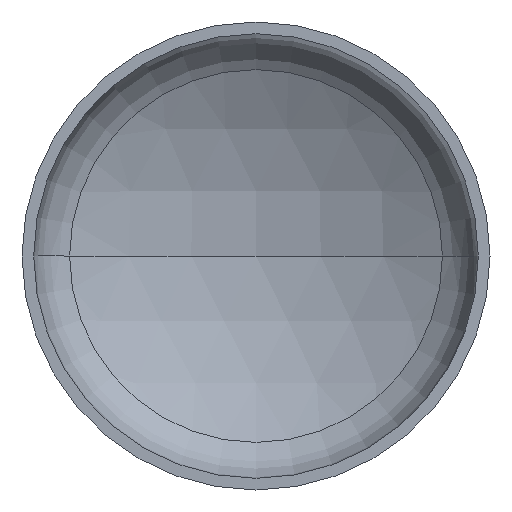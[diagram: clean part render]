
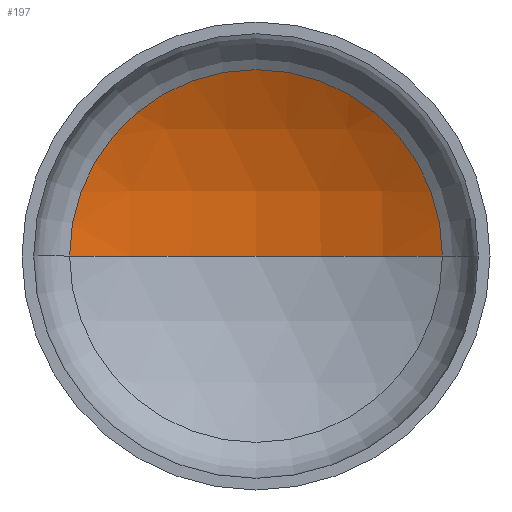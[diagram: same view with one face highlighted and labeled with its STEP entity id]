
A CAD part, front view. The second image highlights one B-rep face of the part: STEP entity #197.
In plain terms, the highlighted spherical face has radius 1440 mm.
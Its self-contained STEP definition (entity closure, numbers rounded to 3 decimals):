
#5 = ORIENTED_EDGE ( 'NONE', *, *, #103, .T. ) ;
#11 = AXIS2_PLACEMENT_3D ( 'NONE', #203, #299, #130 ) ;
#18 = ORIENTED_EDGE ( 'NONE', *, *, #105, .T. ) ;
#27 = AXIS2_PLACEMENT_3D ( 'NONE', #293, #245, #170 ) ;
#39 = AXIS2_PLACEMENT_3D ( 'NONE', #269, #50, #290 ) ;
#42 = AXIS2_PLACEMENT_3D ( 'NONE', #176, #219, #384 ) ;
#44 = EDGE_LOOP ( 'NONE', ( #85, #18, #5 ) ) ;
#50 = DIRECTION ( 'NONE',  ( 0., 0., -1. ) ) ;
#67 = SPHERICAL_SURFACE ( 'NONE', #27, 1440. ) ;
#68 = VERTEX_POINT ( 'NONE', #149 ) ;
#85 = ORIENTED_EDGE ( 'NONE', *, *, #352, .F. ) ;
#103 = EDGE_CURVE ( 'NONE', #106, #350, #390, .T. ) ;
#105 = EDGE_CURVE ( 'NONE', #68, #106, #328, .T. ) ;
#106 = VERTEX_POINT ( 'NONE', #143 ) ;
#130 = DIRECTION ( 'NONE',  ( 1., 0., 0. ) ) ;
#143 = CARTESIAN_POINT ( 'NONE',  ( 716.91, 378.497, 0. ) ) ;
#149 = CARTESIAN_POINT ( 'NONE',  ( 0., 569.641, 0. ) ) ;
#170 = DIRECTION ( 'NONE',  ( -1., 0., 0. ) ) ;
#176 = CARTESIAN_POINT ( 'NONE',  ( 0., 378.497, 0. ) ) ;
#197 = ADVANCED_FACE ( 'NONE', ( #200 ), #67, .F. ) ;
#200 = FACE_OUTER_BOUND ( 'NONE', #44, .T. ) ;
#203 = CARTESIAN_POINT ( 'NONE',  ( 0., -870.359, 0. ) ) ;
#219 = DIRECTION ( 'NONE',  ( 0., -1., 0. ) ) ;
#240 = CARTESIAN_POINT ( 'NONE',  ( -716.91, 378.497, 0. ) ) ;
#245 = DIRECTION ( 'NONE',  ( 0., 0., -1. ) ) ;
#269 = CARTESIAN_POINT ( 'NONE',  ( 0., -870.359, 0. ) ) ;
#290 = DIRECTION ( 'NONE',  ( -1., 0., 0. ) ) ;
#293 = CARTESIAN_POINT ( 'NONE',  ( 0., -870.359, 0. ) ) ;
#299 = DIRECTION ( 'NONE',  ( 0., 0., 1. ) ) ;
#306 = CIRCLE ( 'NONE', #11, 1440. ) ;
#328 = CIRCLE ( 'NONE', #39, 1440. ) ;
#350 = VERTEX_POINT ( 'NONE', #240 ) ;
#352 = EDGE_CURVE ( 'NONE', #68, #350, #306, .T. ) ;
#384 = DIRECTION ( 'NONE',  ( 1., 0., 0. ) ) ;
#390 = CIRCLE ( 'NONE', #42, 716.91 ) ;
